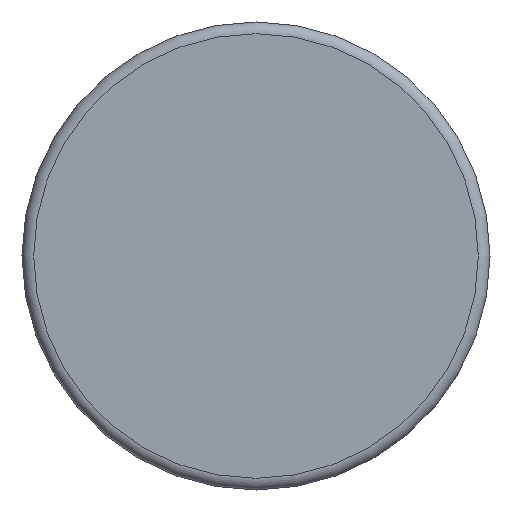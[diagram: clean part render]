
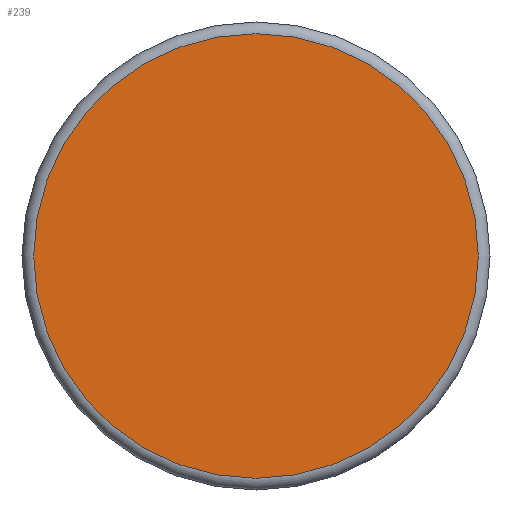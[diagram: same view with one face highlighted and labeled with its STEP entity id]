
A CAD part, front view. The second image highlights one B-rep face of the part: STEP entity #239.
In plain terms, the highlighted planar face has unit normal (0, -1, 0).
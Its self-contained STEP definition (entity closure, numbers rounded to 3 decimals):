
#239 = ADVANCED_FACE( '', ( #458 ), #459, .F. );
#458 = FACE_OUTER_BOUND( '', #658, .T. );
#459 = PLANE( '', #659 );
#658 = EDGE_LOOP( '', ( #1056 ) );
#659 = AXIS2_PLACEMENT_3D( '', #1057, #1058, #1059 );
#1056 = ORIENTED_EDGE( '', *, *, #1223, .T. );
#1057 = CARTESIAN_POINT( '', ( 19., 0., 0. ) );
#1058 = DIRECTION( '', ( 0., 1., 0. ) );
#1059 = DIRECTION( '', ( 0., 0., 1. ) );
#1223 = EDGE_CURVE( '', #1438, #1438, #1439, .T. );
#1438 = VERTEX_POINT( '', #1889 );
#1439 = CIRCLE( '', #1890, 19. );
#1889 = CARTESIAN_POINT( '', ( 0., 0., -19. ) );
#1890 = AXIS2_PLACEMENT_3D( '', #2099, #2100, #2101 );
#2099 = CARTESIAN_POINT( '', ( 0., 0., 0. ) );
#2100 = DIRECTION( '', ( 0., -1., 0. ) );
#2101 = DIRECTION( '', ( 0., 0., -1. ) );
